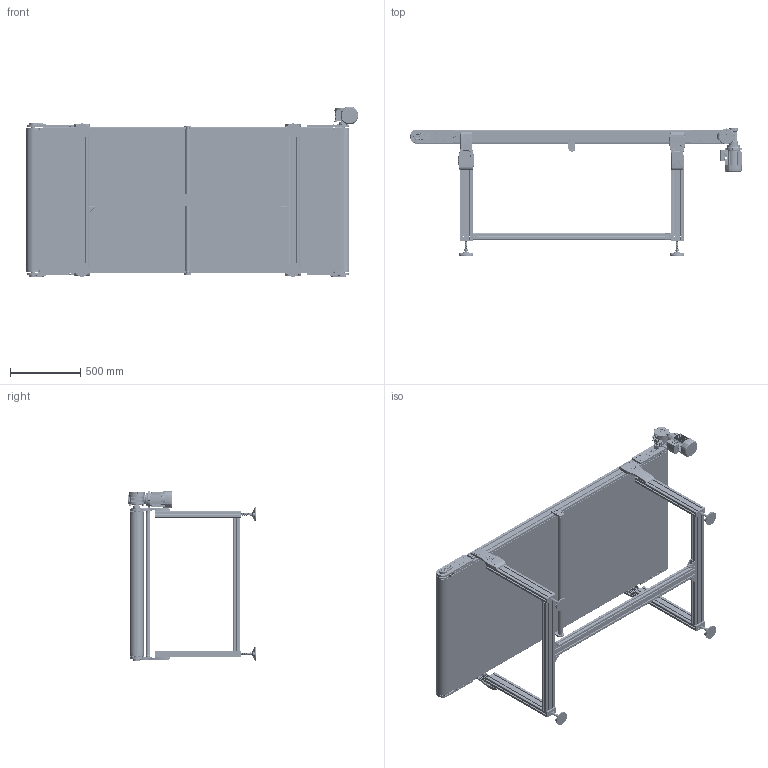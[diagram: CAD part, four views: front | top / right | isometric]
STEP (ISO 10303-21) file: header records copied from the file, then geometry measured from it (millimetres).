
FILE_DESCRIPTION (( 'STEP AP203' ), '1' );
FILE_NAME ('NASTRO_RETTILINEO_TAPPETO.step', '2026-05-05T07:33:42', ( 'Utente Windows' ), ( '' ), 'SwSTEP 2.0', 'SolidWorks 2024', '' );
FILE_SCHEMA (( 'CONFIG_CONTROL_DESIGN' ));
Length unit declared in the file: millimetre
Products named in the file (69): 2010.000.072_L_Default<A macchina>; 084.201.019; 084.301.000 VITI ALUSIC_084.301.003; 2010.000.074; BLOCCO_REGGITAPPETO; 084.802.060_Default<A macchina>; 2010.000.072; 30UNI7435; 084.808.002_084.808.002; 084.802.014; RONDELLE FASCIA LARGA UNI 6593_8.4x32 UNI 6593; VITI TCEI UNI 5931_M4x25 UNI 5931; 2010.000.073; 084.812.003; 25UNI7435; 084.812.002; BLOCCO_BRACCIO_CH05P_CH05P; TELAIO_95_STANDARD_Default<A macchina>; 084.810.003; 084.302.060; 084.802.017_084.802.017; VITE_RONDELLA_M8X20; NASTRO_RETTILINEO_TAPPETO; 084.802.019_084.802.019; 084.302.000 DADI ALUSIC 13x13-1_084.302.009; BLOCCO_PERNO_95_49; 084.802.034_084.802.034; 084.802.068; 084.808.003_084.808.003; VITI TE UNI 5739_M6x12 UNI 5739; 084.305.003-1; RULLO_REGGITAPPETO; 084.802.013-2; FLANGIA_GAMBA_95_CON GIUNTI; VITI TE UNI 5739_M8x12 UNI 5739; 084.803.017; CHIAVETTE_A 8x7x20 UNI 6604-69; TRAVERSA_95_Default<A macchina>; ANGOLARE_43; 084.802.062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
Assembly tree (205 placements, depth 4):
  NASTRO_RETTILINEO_TAPPETO
    TAPPETO_STANDARD
    TELAIO_95_STANDARD_Default<A macchina>
    LAMIERA_STANDARD
    RULLO_95_Default<A macchina>  x2
    BLOCCO_PERNO_95_49
      084.812.002
      084.810.003
      CHIAVETTE_A 8x7x70 UNI 6604-69
      CHIAVETTE_A 8x7x20 UNI 6604-69
      RONDELLE FASCIA LARGA UNI 6593_8.4x32 UNI 6593
      VITI TE UNI 5739_M8x16 UNI 5739
      25UNI7435
      30UNI7435
    BLOCCO_TRAINO_95_STANDARD_49_DX_CON TENDINASTRO E SENZA CARTER
      084.808.003_084.808.003
      084.302.060  x2
      084.802.034_084.802.034
      084.301.000 VITI ALUSIC_084.301.003  x6
      084.802.067_Default<A macchina>
      VITI TCEI UNI 5931_M4x25 UNI 5931  x2
      BLOCCO_BRACCIO_CH05P_CH05P
        084.808.013
        084.802.062
        084.802.060_Default<A macchina>
        VITI TE UNI 5739_M8x12 UNI 5739  x4
        VITI TE UNI 5739_M6x12 UNI 5739  x4
        084.803.017
        VITI TCEI UNI 5931_M6x12 UNI 5931  x4
    BLOCCO_PERNO_95_RINVIO  x3
      084.812.003
      084.810.003
      30UNI7435
    BLOCCO_TRAINO_95_STANDARD_CON TENDINASTRO E CARTER
      084.808.002_084.808.002
      084.302.060  x2
      084.802.019_084.802.019
      084.301.000 VITI ALUSIC_084.301.003  x6
      VITI TCEI UNI 5931_M4x25 UNI 5931  x2
      084.802.071
      084.802.068
      VITI TSEI UNI 5933_M4x12 UNI 5933  x2
    BLOCCO_RINVIO_95_STANDARD_CON TENDINASTRO E CARTER  x2
      084.808.002_084.808.002
      084.803.003
      084.302.060
      084.802.019_084.802.019
      VITI TSEI UNI 5933_M4x12 UNI 5933
      084.302.000 DADI ALUSIC 13x13-1_084.302.004
      084.301.000 VITI ALUSIC_084.301.003
      084.802.071
    GAMBE_D95_Default<A macchina>  x2
    FLANGIA_GAMBA_95_CON GIUNTI
      2010.000.072
        2010.000.072_L_Default<A macchina>
        2010.000.073
        2010.000.074
      084.302.000 DADI ALUSIC 13x13-1_084.302.004  x6
      RONDELLE UNI 6592_8.4x17 UNI 6592  x7
      084.301.000 VITI ALUSIC1_084.301.003  x7
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Bounding box: 2359.8 x 913.5 x 1208.7 mm (x, y, z)
Volume: 38610188.7 mm3; surface area: 30813846.8 mm2
Topology: 358 solids, 363 shells, 17998 faces, 46882 edges, 29878 vertices
Faces by surface type: plane 7843, cylinder 5014, bspline 2159, cone 1660, torus 1186, sphere 136
Entity records: 315772 total; most frequent: CARTESIAN_POINT 124612, ORIENTED_EDGE 39902, DIRECTION 35075, EDGE_CURVE 19951, VERTEX_POINT 12778, AXIS2_PLACEMENT_3D 12248, VECTOR 10579, LINE 10579
